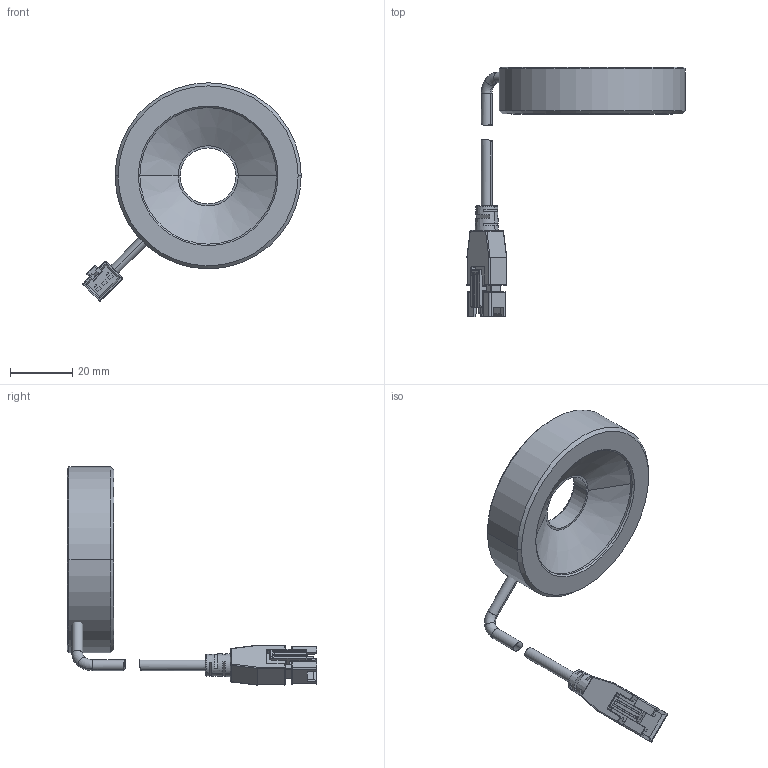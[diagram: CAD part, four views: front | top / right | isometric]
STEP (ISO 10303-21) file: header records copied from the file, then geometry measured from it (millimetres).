
FILE_DESCRIPTION((''),'2;1');
FILE_NAME('P-FSL-60_ASM','2014-06-17T',('Administrator'),(''),'PRO/ENGINEER BY PARAMETRIC TECHNOLOGY CORPORATION, 2011220','PRO/ENGINEER BY PARAMETRIC TECHNOLOGY CORPORATION, 2011220','');
FILE_SCHEMA(('CONFIG_CONTROL_DESIGN'));
Length unit declared in the file: millimetre
Products named in the file (5): PRT0001; LINE_TOU; BODY_12; XIANLAN-_ASM; P-FSL-60_ASM
Assembly tree (4 placements, depth 3):
  P-FSL-60_ASM
    PRT0001
    XIANLAN-_ASM
      LINE_TOU
      BODY_12
Bounding box: 70.39 x 80.3 x 70.39 mm (x, y, z)
Volume: 35217.3 mm3; surface area: 11227.3 mm2
Topology: 3 solids, 7 shells, 270 faces, 670 edges, 415 vertices
Faces by surface type: plane 133, cylinder 87, cone 22, torus 12, bspline 8, sphere 8
Entity records: 8247 total; most frequent: CARTESIAN_POINT 1667, DIRECTION 1400, ORIENTED_EDGE 1308, EDGE_CURVE 662, AXIS2_PLACEMENT_3D 497, VERTEX_POINT 415, VECTOR 406, LINE 406
